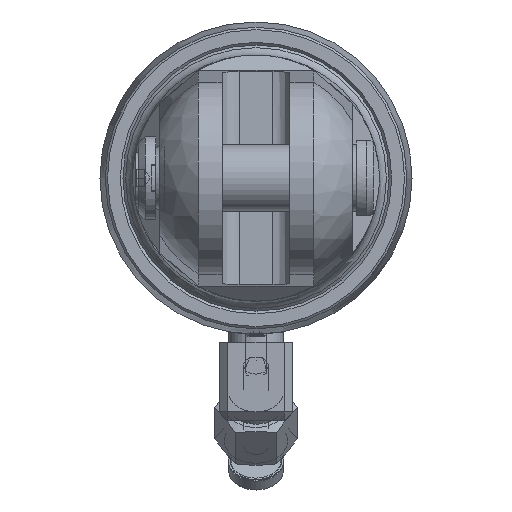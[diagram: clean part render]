
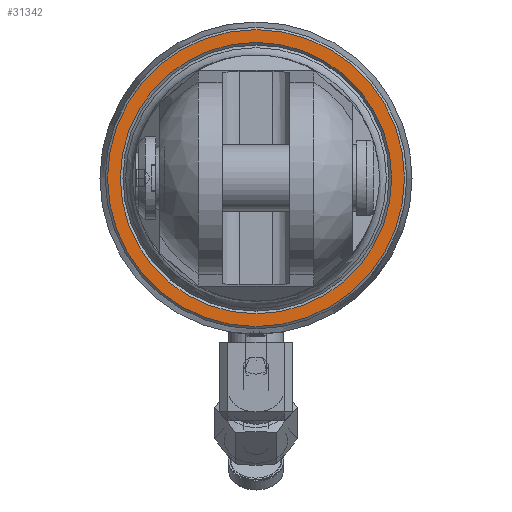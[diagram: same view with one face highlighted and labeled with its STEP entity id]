
A CAD part, left-side view. The second image highlights one B-rep face of the part: STEP entity #31342.
In plain terms, the highlighted planar face has unit normal (-1, 0, 0).
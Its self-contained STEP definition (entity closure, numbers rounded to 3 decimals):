
#282=FACE_BOUND('',#5336,.T.);
#3574=FACE_OUTER_BOUND('',#5335,.T.);
#5335=EDGE_LOOP('',(#26478));
#5336=EDGE_LOOP('',(#26479));
#11295=CIRCLE('',#32607,35.288);
#11296=CIRCLE('',#32610,32.25);
#14049=VERTEX_POINT('',#56845);
#14050=VERTEX_POINT('',#56851);
#18241=EDGE_CURVE('',#14049,#14049,#11295,.T.);
#18243=EDGE_CURVE('',#14050,#14050,#11296,.T.);
#26478=ORIENTED_EDGE('',*,*,#18241,.F.);
#26479=ORIENTED_EDGE('',*,*,#18243,.F.);
#28167=PLANE('',#32609);
#31342=ADVANCED_FACE('',(#3574,#282),#28167,.T.);
#32607=AXIS2_PLACEMENT_3D('',#56847,#37631,#37632);
#32609=AXIS2_PLACEMENT_3D('',#56850,#37636,#37637);
#32610=AXIS2_PLACEMENT_3D('',#56852,#37638,#37639);
#37631=DIRECTION('center_axis',(1.,0.,0.));
#37632=DIRECTION('ref_axis',(0.,-1.,0.));
#37636=DIRECTION('center_axis',(-1.,0.,0.));
#37637=DIRECTION('ref_axis',(0.,0.,1.));
#37638=DIRECTION('center_axis',(-1.,0.,0.));
#37639=DIRECTION('ref_axis',(0.,1.,0.));
#56845=CARTESIAN_POINT('',(0.,35.288,0.));
#56847=CARTESIAN_POINT('Origin',(0.,0.,0.));
#56850=CARTESIAN_POINT('Origin',(0.,0.,0.));
#56851=CARTESIAN_POINT('',(0.,-32.25,0.));
#56852=CARTESIAN_POINT('Origin',(0.,0.,0.));
